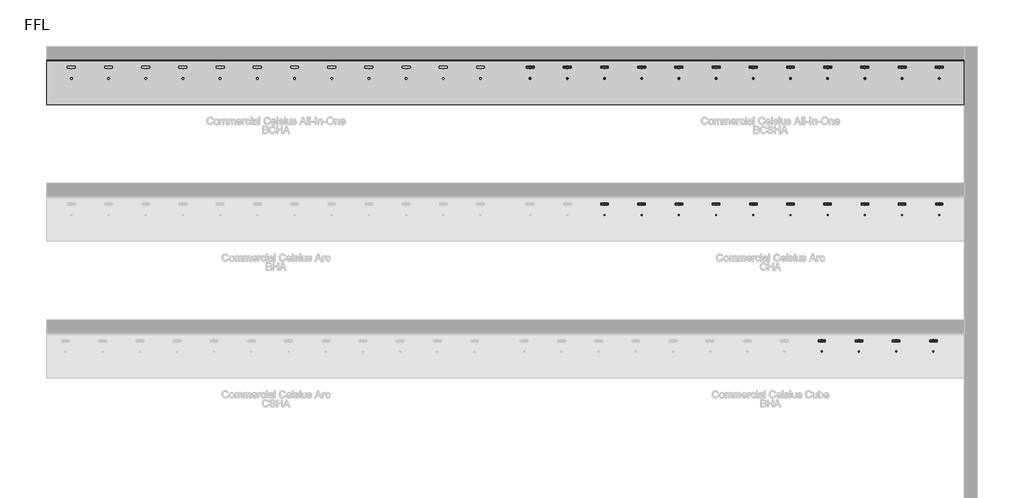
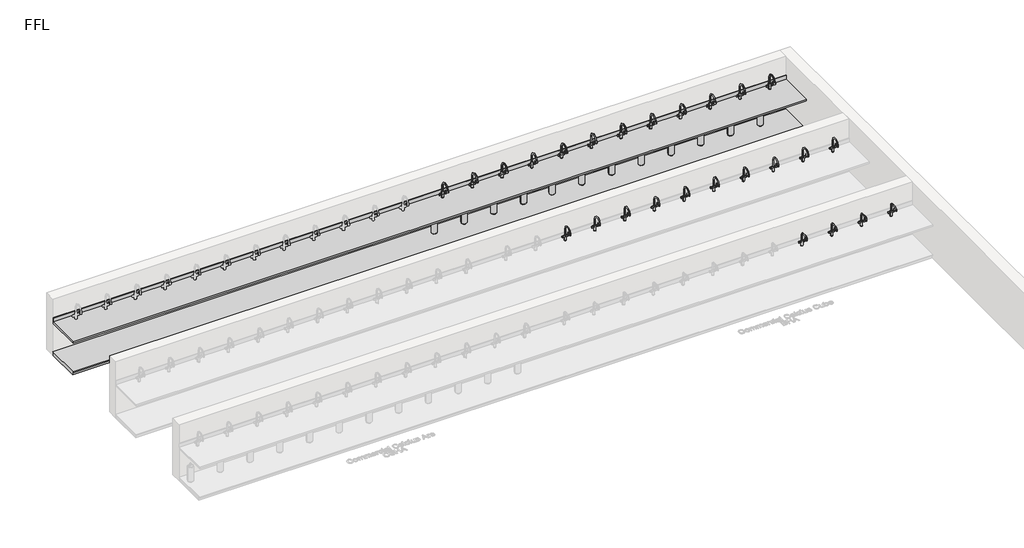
# One storey, part 4 of 9: 56 flow terminals, 2 furniture elements.
"""IFC4 building model written with IfcOpenShell, lengths in millimetres."""

from ifc_helpers import new_model, si_unit, frame, origin, place, context, project, spatial, polyline, circle_curve, transform, mapped, element, save
from ifc_brep_helpers import plane_surface, revolved_surface, advanced_brep
from components import flow_terminal_100_people_nickel_0dc622b1, bright_chrome_d1e259f6, bright_chrome_ca6152f3, co2_gas_cylinder_20234e14, bright_chrome_d5fbbf34, generic_plinth_900mm_f287d53f

model = new_model("IFC4")

# Units and contexts
model_context = context("Model", 3, world=origin())
ifc_project = project(units=[si_unit("LENGTHUNIT", "METRE", prefix="MILLI")], contexts=[model_context])

# Site, building, storey
site = spatial("IfcSite", under=ifc_project)
building = spatial("IfcBuilding", under=site)
storey = spatial("IfcBuildingStorey", under=building, Name="FFL", Elevation=0.0)

# Flow terminals
placement = place(None, origin())
flow_terminal_100_people_nickel_shape = flow_terminal_100_people_nickel_0dc622b1(model_context)
element("IfcFlowTerminal", 1, ObjectType="PlumFixt_Zip Commercial_Celsius Arc_CHA : 100 People - Brushed Gold", at=placement, inside=storey, context=model_context, shape_type="MappedRepresentation", body=[
    mapped(flow_terminal_100_people_nickel_shape, transform((4279.2647071, 4822.7393304, 0.0), x_axis=(1.0, 0.0, 0.0), y_axis=(0.0, 1.0, 0.0), z_axis=(0.0, 0.0, 1.0))),
])
element("IfcFlowTerminal", 2, ObjectType="PlumFixt_Zip Commercial_Celsius Arc_CHA : 100 People - Brushed Nickel", at=placement, inside=storey, context=model_context, shape_type="MappedRepresentation", body=[
    mapped(flow_terminal_100_people_nickel_shape, transform((5029.2647071, 4822.7393304, 0.0), x_axis=(1.0, 0.0, 0.0), y_axis=(0.0, 1.0, 0.0), z_axis=(0.0, 0.0, 1.0))),
])
element("IfcFlowTerminal", 3, ObjectType="PlumFixt_Zip Commercial_Celsius Arc_CHA : 100 People - Brushed Rose Gold", at=placement, inside=storey, context=model_context, shape_type="MappedRepresentation", body=[
    mapped(flow_terminal_100_people_nickel_shape, transform((5779.2647071, 4822.7393304, 0.0), x_axis=(1.0, 0.0, 0.0), y_axis=(0.0, 1.0, 0.0), z_axis=(0.0, 0.0, 1.0))),
])
element("IfcFlowTerminal", 4, ObjectType="PlumFixt_Zip Commercial_Celsius Arc_CHA : 100 People - Gloss Black", at=placement, inside=storey, context=model_context, shape_type="MappedRepresentation", body=[
    mapped(flow_terminal_100_people_nickel_shape, transform((6529.2647071, 4822.7393304, 0.0), x_axis=(1.0, 0.0, 0.0), y_axis=(0.0, 1.0, 0.0), z_axis=(0.0, 0.0, 1.0))),
])
element("IfcFlowTerminal", 5, ObjectType="PlumFixt_Zip Commercial_Celsius Arc_CHA : 100 People - Gold", at=placement, inside=storey, context=model_context, shape_type="MappedRepresentation", body=[
    mapped(flow_terminal_100_people_nickel_shape, transform((7279.2647071, 4822.7393304, 0.0), x_axis=(1.0, 0.0, 0.0), y_axis=(0.0, 1.0, 0.0), z_axis=(0.0, 0.0, 1.0))),
])
element("IfcFlowTerminal", 6, ObjectType="PlumFixt_Zip Commercial_Celsius Arc_CHA : 100 People - Gunmetal", at=placement, inside=storey, context=model_context, shape_type="MappedRepresentation", body=[
    mapped(flow_terminal_100_people_nickel_shape, transform((8029.2647071, 4822.7393304, 0.0), x_axis=(1.0, 0.0, 0.0), y_axis=(0.0, 1.0, 0.0), z_axis=(0.0, 0.0, 1.0))),
])
element("IfcFlowTerminal", 7, ObjectType="PlumFixt_Zip Commercial_Celsius All-In-One_BCSHA : 100 People - Matte Black", at=placement, inside=storey, context=model_context, shape_type="MappedRepresentation", body=[
    mapped(flow_terminal_100_people_nickel_shape, transform((8779.2647071, 7582.7393304, 0.0), x_axis=(1.0, 0.0, 0.0), y_axis=(0.0, 1.0, 0.0), z_axis=(0.0, 0.0, 1.0))),
])
element("IfcFlowTerminal", 8, ObjectType="PlumFixt_Zip Commercial_Celsius All-In-One_BCSHA : 100 People - Matte Black", at=placement, inside=storey, context=model_context, shape_type="MappedRepresentation", body=[
    mapped(flow_terminal_100_people_nickel_shape, transform((11029.2647071, 7582.7393304, 0.0), x_axis=(1.0, 0.0, 0.0), y_axis=(0.0, 1.0, 0.0), z_axis=(0.0, 0.0, 1.0))),
])
element("IfcFlowTerminal", 9, ObjectType="PlumFixt_Zip Commercial_Celsius Arc_CHA : 100 People - Matte Black", at=placement, inside=storey, context=model_context, shape_type="MappedRepresentation", body=[
    mapped(flow_terminal_100_people_nickel_shape, transform((8779.2647071, 4822.7393304, 0.0), x_axis=(1.0, 0.0, 0.0), y_axis=(0.0, 1.0, 0.0), z_axis=(0.0, 0.0, 1.0))),
])
element("IfcFlowTerminal", 10, ObjectType="PlumFixt_Zip Commercial_Celsius Cube_BHA : 100 People - Matte Black", at=placement, inside=storey, context=model_context, shape_type="MappedRepresentation", body=[
    mapped(flow_terminal_100_people_nickel_shape, transform((8659.2647071, 2062.7393304, 0.0), x_axis=(1.0, 0.0, 0.0), y_axis=(0.0, 1.0, 0.0), z_axis=(0.0, 0.0, 1.0))),
])
element("IfcFlowTerminal", 11, ObjectType="PlumFixt_Zip Commercial_Celsius All-In-One_BCSHA : 100 People - Nickel", at=placement, inside=storey, context=model_context, shape_type="MappedRepresentation", body=[
    mapped(flow_terminal_100_people_nickel_shape, transform((9529.2647071, 7582.7393304, 0.0), x_axis=(1.0, 0.0, 0.0), y_axis=(0.0, 1.0, 0.0), z_axis=(0.0, 0.0, 1.0))),
])
element("IfcFlowTerminal", 12, ObjectType="PlumFixt_Zip Commercial_Celsius Arc_CHA : 100 People - Nickel", at=placement, inside=storey, context=model_context, shape_type="MappedRepresentation", body=[
    mapped(flow_terminal_100_people_nickel_shape, transform((9529.2647071, 4822.7393304, 0.0), x_axis=(1.0, 0.0, 0.0), y_axis=(0.0, 1.0, 0.0), z_axis=(0.0, 0.0, 1.0))),
])
element("IfcFlowTerminal", 13, ObjectType="PlumFixt_Zip Commercial_Celsius Cube_BHA : 100 People - Nickel", at=placement, inside=storey, context=model_context, shape_type="MappedRepresentation", body=[
    mapped(flow_terminal_100_people_nickel_shape, transform((9409.2647071, 2062.7393304, 0.0), x_axis=(1.0, 0.0, 0.0), y_axis=(0.0, 1.0, 0.0), z_axis=(0.0, 0.0, 1.0))),
])
element("IfcFlowTerminal", 14, ObjectType="PlumFixt_Zip Commercial_Celsius All-In-One_BCSHA : 100 People - Platinum", at=placement, inside=storey, context=model_context, shape_type="MappedRepresentation", body=[
    mapped(flow_terminal_100_people_nickel_shape, transform((10279.2647071, 7582.7393304, 0.0), x_axis=(1.0, 0.0, 0.0), y_axis=(0.0, 1.0, 0.0), z_axis=(0.0, 0.0, 1.0))),
])
element("IfcFlowTerminal", 15, ObjectType="PlumFixt_Zip Commercial_Celsius Arc_CHA : 100 People - Platinum", at=placement, inside=storey, context=model_context, shape_type="MappedRepresentation", body=[
    mapped(flow_terminal_100_people_nickel_shape, transform((10279.2647071, 4822.7393304, 0.0), x_axis=(1.0, 0.0, 0.0), y_axis=(0.0, 1.0, 0.0), z_axis=(0.0, 0.0, 1.0))),
])
element("IfcFlowTerminal", 16, ObjectType="PlumFixt_Zip Commercial_Celsius Cube_BHA : 100 People - Platinum", at=placement, inside=storey, context=model_context, shape_type="MappedRepresentation", body=[
    mapped(flow_terminal_100_people_nickel_shape, transform((10159.2647071, 2062.7393304, 0.0), x_axis=(1.0, 0.0, 0.0), y_axis=(0.0, 1.0, 0.0), z_axis=(0.0, 0.0, 1.0))),
])
element("IfcFlowTerminal", 17, ObjectType="PlumFixt_Zip Commercial_Celsius Arc_CHA : 100 People - Rose Gold", at=placement, inside=storey, context=model_context, shape_type="MappedRepresentation", body=[
    mapped(flow_terminal_100_people_nickel_shape, transform((11029.2647071, 4822.7393304, 0.0), x_axis=(1.0, 0.0, 0.0), y_axis=(0.0, 1.0, 0.0), z_axis=(0.0, 0.0, 1.0))),
])
element("IfcFlowTerminal", 18, ObjectType="PlumFixt_Zip Commercial_Celsius Cube_BHA : 100 People - Rose Gold", at=placement, inside=storey, context=model_context, shape_type="MappedRepresentation", body=[
    mapped(flow_terminal_100_people_nickel_shape, transform((10909.2647071, 2062.7393304, 0.0), x_axis=(1.0, 0.0, 0.0), y_axis=(0.0, 1.0, 0.0), z_axis=(0.0, 0.0, 1.0))),
])
bright_chrome_shape = bright_chrome_d1e259f6(model_context)
element("IfcFlowTerminal", 19, ObjectType="z_PlumFixt_Zip_Celsius All-In-One : Bright Chrome", at=placement, inside=storey, context=model_context, shape_type="MappedRepresentation", body=[
    mapped(bright_chrome_shape, transform((2779.2647071, 7621.7393304, 900.0), x_axis=(1.0, 0.0, 0.0), y_axis=(0.0, 1.0, 0.0), z_axis=(0.0, 0.0, 1.0))),
])
element("IfcFlowTerminal", 20, ObjectType="z_PlumFixt_Zip_Celsius All-In-One : Brushed Chrome", at=placement, inside=storey, context=model_context, shape_type="MappedRepresentation", body=[
    mapped(bright_chrome_shape, transform((3529.2647071, 7621.7393304, 900.0), x_axis=(1.0, 0.0, 0.0), y_axis=(0.0, 1.0, 0.0), z_axis=(0.0, 0.0, 1.0))),
])
element("IfcFlowTerminal", 21, ObjectType="z_PlumFixt_Zip_Celsius All-In-One : Brushed Gold", at=placement, inside=storey, context=model_context, shape_type="MappedRepresentation", body=[
    mapped(bright_chrome_shape, transform((4279.2647071, 7621.7393304, 900.0), x_axis=(1.0, 0.0, 0.0), y_axis=(0.0, 1.0, 0.0), z_axis=(0.0, 0.0, 1.0))),
])
bright_chrome_2_shape = bright_chrome_ca6152f3(model_context)
element("IfcFlowTerminal", 22, ObjectType="z_PlumFixt_Zip_Celsius Arc : Brushed Gold", at=placement, inside=storey, context=model_context, shape_type="MappedRepresentation", body=[
    mapped(bright_chrome_2_shape, transform((4279.2647071, 4849.4893304, 900.0), x_axis=(1.0, 0.0, 0.0), y_axis=(0.0, 1.0, 0.0), z_axis=(0.0, 0.0, 1.0))),
])
element("IfcFlowTerminal", 23, ObjectType="z_PlumFixt_Zip_Celsius All-In-One : Brushed Nickel", at=placement, inside=storey, context=model_context, shape_type="MappedRepresentation", body=[
    mapped(bright_chrome_shape, transform((5029.2647071, 7621.7393304, 900.0), x_axis=(1.0, 0.0, 0.0), y_axis=(0.0, 1.0, 0.0), z_axis=(0.0, 0.0, 1.0))),
])
element("IfcFlowTerminal", 24, ObjectType="z_PlumFixt_Zip_Celsius Arc : Brushed Nickel", at=placement, inside=storey, context=model_context, shape_type="MappedRepresentation", body=[
    mapped(bright_chrome_2_shape, transform((5029.2647071, 4849.4893304, 900.0), x_axis=(1.0, 0.0, 0.0), y_axis=(0.0, 1.0, 0.0), z_axis=(0.0, 0.0, 1.0))),
])
element("IfcFlowTerminal", 25, ObjectType="z_PlumFixt_Zip_Celsius All-In-One : Brushed Rose Gold", at=placement, inside=storey, context=model_context, shape_type="MappedRepresentation", body=[
    mapped(bright_chrome_shape, transform((5779.2647071, 7621.7393304, 900.0), x_axis=(1.0, 0.0, 0.0), y_axis=(0.0, 1.0, 0.0), z_axis=(0.0, 0.0, 1.0))),
])
element("IfcFlowTerminal", 26, ObjectType="z_PlumFixt_Zip_Celsius Arc : Brushed Rose Gold", at=placement, inside=storey, context=model_context, shape_type="MappedRepresentation", body=[
    mapped(bright_chrome_2_shape, transform((5779.2647071, 4849.4893304, 900.0), x_axis=(1.0, 0.0, 0.0), y_axis=(0.0, 1.0, 0.0), z_axis=(0.0, 0.0, 1.0))),
])
co2_gas_cylinder_shape = co2_gas_cylinder_20234e14(model_context)
element("IfcFlowTerminal", 27, ObjectType="z_PlumFixt_Zip_CO2 Gas Cylinder : CO2 Gas Cylinder", at=placement, inside=storey, context=model_context, shape_type="MappedRepresentation", body=[
    mapped(co2_gas_cylinder_shape, transform((2511.7647071, 7510.7393304, 100.0), x_axis=(-1.0, 0.0, 0.0), y_axis=(0.0, -1.0, 0.0), z_axis=(0.0, 0.0, 1.0))),
])
element("IfcFlowTerminal", 28, ObjectType="z_PlumFixt_Zip_CO2 Gas Cylinder : CO2 Gas Cylinder", at=placement, inside=storey, context=model_context, shape_type="MappedRepresentation", body=[
    mapped(co2_gas_cylinder_shape, transform((3261.7647071, 7510.7393304, 100.0), x_axis=(-1.0, 0.0, 0.0), y_axis=(0.0, -1.0, 0.0), z_axis=(0.0, 0.0, 1.0))),
])
element("IfcFlowTerminal", 29, ObjectType="z_PlumFixt_Zip_CO2 Gas Cylinder : CO2 Gas Cylinder", at=placement, inside=storey, context=model_context, shape_type="MappedRepresentation", body=[
    mapped(co2_gas_cylinder_shape, transform((4011.7647071, 7510.7393304, 100.0), x_axis=(-1.0, 0.0, 0.0), y_axis=(0.0, -1.0, 0.0), z_axis=(0.0, 0.0, 1.0))),
])
element("IfcFlowTerminal", 30, ObjectType="z_PlumFixt_Zip_CO2 Gas Cylinder : CO2 Gas Cylinder", at=placement, inside=storey, context=model_context, shape_type="MappedRepresentation", body=[
    mapped(co2_gas_cylinder_shape, transform((4761.7647071, 7510.7393304, 100.0), x_axis=(-1.0, 0.0, 0.0), y_axis=(0.0, -1.0, 0.0), z_axis=(0.0, 0.0, 1.0))),
])
element("IfcFlowTerminal", 31, ObjectType="z_PlumFixt_Zip_CO2 Gas Cylinder : CO2 Gas Cylinder", at=placement, inside=storey, context=model_context, shape_type="MappedRepresentation", body=[
    mapped(co2_gas_cylinder_shape, transform((5484.2647071, 7509.2393304, 100.0), x_axis=(-1.0, 0.0, 0.0), y_axis=(0.0, -1.0, 0.0), z_axis=(0.0, 0.0, 1.0))),
])
element("IfcFlowTerminal", 32, ObjectType="z_PlumFixt_Zip_CO2 Gas Cylinder : CO2 Gas Cylinder", at=placement, inside=storey, context=model_context, shape_type="MappedRepresentation", body=[
    mapped(co2_gas_cylinder_shape, transform((6234.2647071, 7509.2393304, 100.0), x_axis=(-1.0, 0.0, 0.0), y_axis=(0.0, -1.0, 0.0), z_axis=(0.0, 0.0, 1.0))),
])
element("IfcFlowTerminal", 33, ObjectType="z_PlumFixt_Zip_CO2 Gas Cylinder : CO2 Gas Cylinder", at=placement, inside=storey, context=model_context, shape_type="MappedRepresentation", body=[
    mapped(co2_gas_cylinder_shape, transform((6984.2647071, 7509.2393304, 100.0), x_axis=(-1.0, 0.0, 0.0), y_axis=(0.0, -1.0, 0.0), z_axis=(0.0, 0.0, 1.0))),
])
element("IfcFlowTerminal", 34, ObjectType="z_PlumFixt_Zip_CO2 Gas Cylinder : CO2 Gas Cylinder", at=placement, inside=storey, context=model_context, shape_type="MappedRepresentation", body=[
    mapped(co2_gas_cylinder_shape, transform((7734.2647071, 7509.2393304, 100.0), x_axis=(-1.0, 0.0, 0.0), y_axis=(0.0, -1.0, 0.0), z_axis=(0.0, 0.0, 1.0))),
])
element("IfcFlowTerminal", 35, ObjectType="z_PlumFixt_Zip_CO2 Gas Cylinder : CO2 Gas Cylinder", at=placement, inside=storey, context=model_context, shape_type="MappedRepresentation", body=[
    mapped(co2_gas_cylinder_shape, transform((8484.2647071, 7509.2393304, 100.0), x_axis=(-1.0, 0.0, 0.0), y_axis=(0.0, -1.0, 0.0), z_axis=(0.0, 0.0, 1.0))),
])
element("IfcFlowTerminal", 36, ObjectType="z_PlumFixt_Zip_CO2 Gas Cylinder : CO2 Gas Cylinder", at=placement, inside=storey, context=model_context, shape_type="MappedRepresentation", body=[
    mapped(co2_gas_cylinder_shape, transform((9234.2647071, 7509.2393304, 100.0), x_axis=(-1.0, 0.0, 0.0), y_axis=(0.0, -1.0, 0.0), z_axis=(0.0, 0.0, 1.0))),
])
element("IfcFlowTerminal", 37, ObjectType="z_PlumFixt_Zip_CO2 Gas Cylinder : CO2 Gas Cylinder", at=placement, inside=storey, context=model_context, shape_type="MappedRepresentation", body=[
    mapped(co2_gas_cylinder_shape, transform((9984.2647071, 7509.2393304, 100.0), x_axis=(-1.0, 0.0, 0.0), y_axis=(0.0, -1.0, 0.0), z_axis=(0.0, 0.0, 1.0))),
])
element("IfcFlowTerminal", 38, ObjectType="z_PlumFixt_Zip_CO2 Gas Cylinder : CO2 Gas Cylinder", at=placement, inside=storey, context=model_context, shape_type="MappedRepresentation", body=[
    mapped(co2_gas_cylinder_shape, transform((10734.2647071, 7509.2393304, 100.0), x_axis=(-1.0, 0.0, 0.0), y_axis=(0.0, -1.0, 0.0), z_axis=(0.0, 0.0, 1.0))),
])
element("IfcFlowTerminal", 39, ObjectType="z_PlumFixt_Zip_Celsius All-In-One : Gloss Black", at=placement, inside=storey, context=model_context, shape_type="MappedRepresentation", body=[
    mapped(bright_chrome_shape, transform((6529.2647071, 7621.7393304, 900.0), x_axis=(1.0, 0.0, 0.0), y_axis=(0.0, 1.0, 0.0), z_axis=(0.0, 0.0, 1.0))),
])
element("IfcFlowTerminal", 40, ObjectType="z_PlumFixt_Zip_Celsius Arc : Gloss Black", at=placement, inside=storey, context=model_context, shape_type="MappedRepresentation", body=[
    mapped(bright_chrome_2_shape, transform((6529.2647071, 4849.4893304, 900.0), x_axis=(1.0, 0.0, 0.0), y_axis=(0.0, 1.0, 0.0), z_axis=(0.0, 0.0, 1.0))),
])
element("IfcFlowTerminal", 41, ObjectType="z_PlumFixt_Zip_Celsius All-In-One : Gold", at=placement, inside=storey, context=model_context, shape_type="MappedRepresentation", body=[
    mapped(bright_chrome_shape, transform((7279.2647071, 7621.7393304, 900.0), x_axis=(1.0, 0.0, 0.0), y_axis=(0.0, 1.0, 0.0), z_axis=(0.0, 0.0, 1.0))),
])
element("IfcFlowTerminal", 42, ObjectType="z_PlumFixt_Zip_Celsius Arc : Gold", at=placement, inside=storey, context=model_context, shape_type="MappedRepresentation", body=[
    mapped(bright_chrome_2_shape, transform((7279.2647071, 4849.4893304, 900.0), x_axis=(1.0, 0.0, 0.0), y_axis=(0.0, 1.0, 0.0), z_axis=(0.0, 0.0, 1.0))),
])
element("IfcFlowTerminal", 43, ObjectType="z_PlumFixt_Zip_Celsius All-In-One : Gunmetal", at=placement, inside=storey, context=model_context, shape_type="MappedRepresentation", body=[
    mapped(bright_chrome_shape, transform((8029.2647071, 7621.7393304, 900.0), x_axis=(1.0, 0.0, 0.0), y_axis=(0.0, 1.0, 0.0), z_axis=(0.0, 0.0, 1.0))),
])
element("IfcFlowTerminal", 44, ObjectType="z_PlumFixt_Zip_Celsius Arc : Gunmetal", at=placement, inside=storey, context=model_context, shape_type="MappedRepresentation", body=[
    mapped(bright_chrome_2_shape, transform((8029.2647071, 4849.4893304, 900.0), x_axis=(1.0, 0.0, 0.0), y_axis=(0.0, 1.0, 0.0), z_axis=(0.0, 0.0, 1.0))),
])
element("IfcFlowTerminal", 45, ObjectType="z_PlumFixt_Zip_Celsius All-In-One : Matte Black", at=placement, inside=storey, context=model_context, shape_type="MappedRepresentation", body=[
    mapped(bright_chrome_shape, transform((8779.2647071, 7621.7393304, 900.0), x_axis=(1.0, 0.0, 0.0), y_axis=(0.0, 1.0, 0.0), z_axis=(0.0, 0.0, 1.0))),
])
element("IfcFlowTerminal", 46, ObjectType="z_PlumFixt_Zip_Celsius All-In-One : Matte Black", at=placement, inside=storey, context=model_context, shape_type="MappedRepresentation", body=[
    mapped(bright_chrome_shape, transform((11029.2647071, 7621.7393304, 900.0), x_axis=(1.0, 0.0, 0.0), y_axis=(0.0, 1.0, 0.0), z_axis=(0.0, 0.0, 1.0))),
])
element("IfcFlowTerminal", 47, ObjectType="z_PlumFixt_Zip_Celsius Arc : Matte Black", at=placement, inside=storey, context=model_context, shape_type="MappedRepresentation", body=[
    mapped(bright_chrome_2_shape, transform((8779.2647071, 4849.4893304, 900.0), x_axis=(1.0, 0.0, 0.0), y_axis=(0.0, 1.0, 0.0), z_axis=(0.0, 0.0, 1.0))),
])
bright_chrome_3_shape = bright_chrome_d5fbbf34(model_context)
element("IfcFlowTerminal", 48, ObjectType="z_PlumFixt_Zip_Celsius Cube : Matte Black", at=placement, inside=storey, context=model_context, shape_type="MappedRepresentation", body=[
    mapped(bright_chrome_3_shape, transform((8659.2647071, 2089.4893304, 900.0), x_axis=(1.0, 0.0, 0.0), y_axis=(0.0, 1.0, 0.0), z_axis=(0.0, 0.0, 1.0))),
])
element("IfcFlowTerminal", 49, ObjectType="z_PlumFixt_Zip_Celsius All-In-One : Nickel", at=placement, inside=storey, context=model_context, shape_type="MappedRepresentation", body=[
    mapped(bright_chrome_shape, transform((9529.2647071, 7621.7393304, 900.0), x_axis=(1.0, 0.0, 0.0), y_axis=(0.0, 1.0, 0.0), z_axis=(0.0, 0.0, 1.0))),
])
element("IfcFlowTerminal", 50, ObjectType="z_PlumFixt_Zip_Celsius Arc : Nickel", at=placement, inside=storey, context=model_context, shape_type="MappedRepresentation", body=[
    mapped(bright_chrome_2_shape, transform((9529.2647071, 4849.4893304, 900.0), x_axis=(1.0, 0.0, 0.0), y_axis=(0.0, 1.0, 0.0), z_axis=(0.0, 0.0, 1.0))),
])
element("IfcFlowTerminal", 51, ObjectType="z_PlumFixt_Zip_Celsius Cube : Nickel", at=placement, inside=storey, context=model_context, shape_type="MappedRepresentation", body=[
    mapped(bright_chrome_3_shape, transform((9409.2647071, 2089.4893304, 900.0), x_axis=(1.0, 0.0, 0.0), y_axis=(0.0, 1.0, 0.0), z_axis=(0.0, 0.0, 1.0))),
])
element("IfcFlowTerminal", 52, ObjectType="z_PlumFixt_Zip_Celsius All-In-One : Platinum", at=placement, inside=storey, context=model_context, shape_type="MappedRepresentation", body=[
    mapped(bright_chrome_shape, transform((10279.2647071, 7621.7393304, 900.0), x_axis=(1.0, 0.0, 0.0), y_axis=(0.0, 1.0, 0.0), z_axis=(0.0, 0.0, 1.0))),
])
element("IfcFlowTerminal", 53, ObjectType="z_PlumFixt_Zip_Celsius Arc : Platinum", at=placement, inside=storey, context=model_context, shape_type="MappedRepresentation", body=[
    mapped(bright_chrome_2_shape, transform((10279.2647071, 4849.4893304, 900.0), x_axis=(1.0, 0.0, 0.0), y_axis=(0.0, 1.0, 0.0), z_axis=(0.0, 0.0, 1.0))),
])
element("IfcFlowTerminal", 54, ObjectType="z_PlumFixt_Zip_Celsius Cube : Platinum", at=placement, inside=storey, context=model_context, shape_type="MappedRepresentation", body=[
    mapped(bright_chrome_3_shape, transform((10159.2647071, 2089.4893304, 900.0), x_axis=(1.0, 0.0, 0.0), y_axis=(0.0, 1.0, 0.0), z_axis=(0.0, 0.0, 1.0))),
])
element("IfcFlowTerminal", 55, ObjectType="z_PlumFixt_Zip_Celsius Arc : Rose Gold", at=placement, inside=storey, context=model_context, shape_type="MappedRepresentation", body=[
    mapped(bright_chrome_2_shape, transform((11029.2647071, 4849.4893304, 900.0), x_axis=(1.0, 0.0, 0.0), y_axis=(0.0, 1.0, 0.0), z_axis=(0.0, 0.0, 1.0))),
])
element("IfcFlowTerminal", 56, ObjectType="z_PlumFixt_Zip_Celsius Cube : Rose Gold", at=placement, inside=storey, context=model_context, shape_type="MappedRepresentation", body=[
    mapped(bright_chrome_3_shape, transform((10909.2647071, 2089.4893304, 900.0), x_axis=(1.0, 0.0, 0.0), y_axis=(0.0, 1.0, 0.0), z_axis=(0.0, 0.0, 1.0))),
])

# Furniture
element("IfcFurniture", 57, ObjectType="Counter Top : 900mm Depth", at=placement, inside=storey, context=model_context, shape_type="AdvancedBrep", body=[
    advanced_brep(
    [(-6969.7352929, 6948.2393304, 900.0), (11530.2647071, 6948.2393304, 900.0), (11530.2647071, 7829.1893304, 900.0), (-6969.7352929, 7829.1893304, 900.0), (-6495.7352929, 7698.2393304, 900.0), (-6443.7352929, 7698.2393304, 900.0), (-5745.7352929, 7698.2393304, 900.0), (-5693.7352929, 7698.2393304, 900.0), (-4995.7352929, 7698.2393304, 900.0), (-4943.7352929, 7698.2393304, 900.0), (-4245.7352929, 7698.2393304, 900.0), (-4193.7352929, 7698.2393304, 900.0), (-3495.7352929, 7698.2393304, 900.0), (-3443.7352929, 7698.2393304, 900.0), (-2745.7352929, 7698.2393304, 900.0), (-2693.7352929, 7698.2393304, 900.0), (-1995.7352929, 7698.2393304, 900.0), (-1943.7352929, 7698.2393304, 900.0), (-1245.7352929, 7698.2393304, 900.0), (-1193.7352929, 7698.2393304, 900.0), (-495.7352929, 7698.2393304, 900.0), (-443.7352929, 7698.2393304, 900.0), (254.2647071, 7698.2393304, 900.0), (306.2647071, 7698.2393304, 900.0), (1004.2647071, 7698.2393304, 900.0), (1056.2647071, 7698.2393304, 900.0), (1754.2647071, 7698.2393304, 900.0), (1806.2647071, 7698.2393304, 900.0), (2754.2647071, 7698.2393304, 900.0), (2806.2647071, 7698.2393304, 900.0), (3504.2647071, 7698.2393304, 900.0), (3556.2647071, 7698.2393304, 900.0), (4254.2647071, 7698.2393304, 900.0), (4306.2647071, 7698.2393304, 900.0), (5004.2647071, 7698.2393304, 900.0), (5056.2647071, 7698.2393304, 900.0), (5754.2647071, 7698.2393304, 900.0), (5806.2647071, 7698.2393304, 900.0), (6504.2647071, 7698.2393304, 900.0), (6556.2647071, 7698.2393304, 900.0), (7254.2647071, 7698.2393304, 900.0), (7306.2647071, 7698.2393304, 900.0), (8004.2647071, 7698.2393304, 900.0), (8056.2647071, 7698.2393304, 900.0), (8754.2647071, 7698.2393304, 900.0), (8806.2647071, 7698.2393304, 900.0), (9504.2647071, 7698.2393304, 900.0), (9556.2647071, 7698.2393304, 900.0), (10254.2647071, 7698.2393304, 900.0), (10306.2647071, 7698.2393304, 900.0), (11004.2647071, 7698.2393304, 900.0), (11056.2647071, 7698.2393304, 900.0), (11530.2647071, 7848.2393304, 860.0), (11530.2647071, 6948.2393304, 860.0), (-6969.7352929, 6948.2393304, 860.0), (-6969.7352929, 7848.2393304, 860.0), (-6443.7352929, 7698.2393304, 860.0), (-6495.7352929, 7698.2393304, 860.0), (-5693.7352929, 7698.2393304, 860.0), (-5745.7352929, 7698.2393304, 860.0), (-4943.7352929, 7698.2393304, 860.0), (-4995.7352929, 7698.2393304, 860.0), (-4193.7352929, 7698.2393304, 860.0), (-4245.7352929, 7698.2393304, 860.0), (-3443.7352929, 7698.2393304, 860.0), (-3495.7352929, 7698.2393304, 860.0), (-2693.7352929, 7698.2393304, 860.0), (-2745.7352929, 7698.2393304, 860.0), (-1943.7352929, 7698.2393304, 860.0), (-1995.7352929, 7698.2393304, 860.0), (-1193.7352929, 7698.2393304, 860.0), (-1245.7352929, 7698.2393304, 860.0), (-443.7352929, 7698.2393304, 860.0), (-495.7352929, 7698.2393304, 860.0), (306.2647071, 7698.2393304, 860.0), (254.2647071, 7698.2393304, 860.0), (1056.2647071, 7698.2393304, 860.0), (1004.2647071, 7698.2393304, 860.0), (1806.2647071, 7698.2393304, 860.0), (1754.2647071, 7698.2393304, 860.0), (2806.2647071, 7698.2393304, 860.0), (2754.2647071, 7698.2393304, 860.0), (3556.2647071, 7698.2393304, 860.0), (3504.2647071, 7698.2393304, 860.0), (4306.2647071, 7698.2393304, 860.0), (4254.2647071, 7698.2393304, 860.0), (5056.2647071, 7698.2393304, 860.0), (5004.2647071, 7698.2393304, 860.0), (5806.2647071, 7698.2393304, 860.0), (5754.2647071, 7698.2393304, 860.0), (6556.2647071, 7698.2393304, 860.0), (6504.2647071, 7698.2393304, 860.0), (7306.2647071, 7698.2393304, 860.0), (7254.2647071, 7698.2393304, 860.0), (8056.2647071, 7698.2393304, 860.0), (8004.2647071, 7698.2393304, 860.0), (8806.2647071, 7698.2393304, 860.0), (8754.2647071, 7698.2393304, 860.0), (9556.2647071, 7698.2393304, 860.0), (9504.2647071, 7698.2393304, 860.0), (10306.2647071, 7698.2393304, 860.0), (10254.2647071, 7698.2393304, 860.0), (11056.2647071, 7698.2393304, 860.0), (11004.2647071, 7698.2393304, 860.0), (-6969.7352929, 7848.2393304, 1001.6), (11530.2647071, 7848.2393304, 1001.6), (-6969.7352929, 7829.1893304, 1001.6), (11530.2647071, 7829.1893304, 1001.6)],
    [
        (0, 1),
        (1, 2),
        (2, 3),
        (3, 0),
        (4, 5, circle_curve(frame((-6469.7352929, 7698.2393304, 900.0), z_axis=(0.0, 0.0, -1.0), x_axis=(-1.0, 0.0, 0.0)), 26.0)),
        (5, 4, circle_curve(frame((-6469.7352929, 7698.2393304, 900.0), z_axis=(0.0, 0.0, -1.0), x_axis=(-1.0, 0.0, 0.0)), 26.0)),
        (6, 7, circle_curve(frame((-5719.7352929, 7698.2393304, 900.0), z_axis=(0.0, 0.0, -1.0), x_axis=(-1.0, 0.0, 0.0)), 26.0)),
        (7, 6, circle_curve(frame((-5719.7352929, 7698.2393304, 900.0), z_axis=(0.0, 0.0, -1.0), x_axis=(-1.0, 0.0, 0.0)), 26.0)),
        (8, 9, circle_curve(frame((-4969.7352929, 7698.2393304, 900.0), z_axis=(0.0, 0.0, -1.0), x_axis=(-1.0, 0.0, 0.0)), 26.0)),
        (9, 8, circle_curve(frame((-4969.7352929, 7698.2393304, 900.0), z_axis=(0.0, 0.0, -1.0), x_axis=(-1.0, 0.0, 0.0)), 26.0)),
        (10, 11, circle_curve(frame((-4219.7352929, 7698.2393304, 900.0), z_axis=(0.0, 0.0, -1.0), x_axis=(-1.0, 0.0, 0.0)), 26.0)),
        (11, 10, circle_curve(frame((-4219.7352929, 7698.2393304, 900.0), z_axis=(0.0, 0.0, -1.0), x_axis=(-1.0, 0.0, 0.0)), 26.0)),
        (12, 13, circle_curve(frame((-3469.7352929, 7698.2393304, 900.0), z_axis=(0.0, 0.0, -1.0), x_axis=(-1.0, 0.0, 0.0)), 26.0)),
        (13, 12, circle_curve(frame((-3469.7352929, 7698.2393304, 900.0), z_axis=(0.0, 0.0, -1.0), x_axis=(-1.0, 0.0, 0.0)), 26.0)),
        (14, 15, circle_curve(frame((-2719.7352929, 7698.2393304, 900.0), z_axis=(0.0, 0.0, -1.0), x_axis=(-1.0, 0.0, 0.0)), 26.0)),
        (15, 14, circle_curve(frame((-2719.7352929, 7698.2393304, 900.0), z_axis=(0.0, 0.0, -1.0), x_axis=(-1.0, 0.0, 0.0)), 26.0)),
        (16, 17, circle_curve(frame((-1969.7352929, 7698.2393304, 900.0), z_axis=(0.0, 0.0, -1.0), x_axis=(-1.0, 0.0, 0.0)), 26.0)),
        (17, 16, circle_curve(frame((-1969.7352929, 7698.2393304, 900.0), z_axis=(0.0, 0.0, -1.0), x_axis=(-1.0, 0.0, 0.0)), 26.0)),
        (18, 19, circle_curve(frame((-1219.7352929, 7698.2393304, 900.0), z_axis=(0.0, 0.0, -1.0), x_axis=(-1.0, 0.0, 0.0)), 26.0)),
        (19, 18, circle_curve(frame((-1219.7352929, 7698.2393304, 900.0), z_axis=(0.0, 0.0, -1.0), x_axis=(-1.0, 0.0, 0.0)), 26.0)),
        (20, 21, circle_curve(frame((-469.7352929, 7698.2393304, 900.0), z_axis=(0.0, 0.0, -1.0), x_axis=(-1.0, 0.0, 0.0)), 26.0)),
        (21, 20, circle_curve(frame((-469.7352929, 7698.2393304, 900.0), z_axis=(0.0, 0.0, -1.0), x_axis=(-1.0, 0.0, 0.0)), 26.0)),
        (22, 23, circle_curve(frame((280.2647071, 7698.2393304, 900.0), z_axis=(0.0, 0.0, -1.0), x_axis=(-1.0, 0.0, 0.0)), 26.0)),
        (23, 22, circle_curve(frame((280.2647071, 7698.2393304, 900.0), z_axis=(0.0, 0.0, -1.0), x_axis=(-1.0, 0.0, 0.0)), 26.0)),
        (24, 25, circle_curve(frame((1030.2647071, 7698.2393304, 900.0), z_axis=(0.0, 0.0, -1.0), x_axis=(-1.0, 0.0, 0.0)), 26.0)),
        (25, 24, circle_curve(frame((1030.2647071, 7698.2393304, 900.0), z_axis=(0.0, 0.0, -1.0), x_axis=(-1.0, 0.0, 0.0)), 26.0)),
        (26, 27, circle_curve(frame((1780.2647071, 7698.2393304, 900.0), z_axis=(0.0, 0.0, -1.0), x_axis=(-1.0, 0.0, 0.0)), 26.0)),
        (27, 26, circle_curve(frame((1780.2647071, 7698.2393304, 900.0), z_axis=(0.0, 0.0, -1.0), x_axis=(-1.0, 0.0, 0.0)), 26.0)),
        (28, 29, circle_curve(frame((2780.2647071, 7698.2393304, 900.0), z_axis=(0.0, 0.0, -1.0), x_axis=(-1.0, 0.0, 0.0)), 26.0)),
        (29, 28, circle_curve(frame((2780.2647071, 7698.2393304, 900.0), z_axis=(0.0, 0.0, -1.0), x_axis=(-1.0, 0.0, 0.0)), 26.0)),
        (30, 31, circle_curve(frame((3530.2647071, 7698.2393304, 900.0), z_axis=(0.0, 0.0, -1.0), x_axis=(-1.0, 0.0, 0.0)), 26.0)),
        (31, 30, circle_curve(frame((3530.2647071, 7698.2393304, 900.0), z_axis=(0.0, 0.0, -1.0), x_axis=(-1.0, 0.0, 0.0)), 26.0)),
        (32, 33, circle_curve(frame((4280.2647071, 7698.2393304, 900.0), z_axis=(0.0, 0.0, -1.0), x_axis=(-1.0, 0.0, 0.0)), 26.0)),
        (33, 32, circle_curve(frame((4280.2647071, 7698.2393304, 900.0), z_axis=(0.0, 0.0, -1.0), x_axis=(-1.0, 0.0, 0.0)), 26.0)),
        (34, 35, circle_curve(frame((5030.2647071, 7698.2393304, 900.0), z_axis=(0.0, 0.0, -1.0), x_axis=(-1.0, 0.0, 0.0)), 26.0)),
        (35, 34, circle_curve(frame((5030.2647071, 7698.2393304, 900.0), z_axis=(0.0, 0.0, -1.0), x_axis=(-1.0, 0.0, 0.0)), 26.0)),
        (36, 37, circle_curve(frame((5780.2647071, 7698.2393304, 900.0), z_axis=(0.0, 0.0, -1.0), x_axis=(-1.0, 0.0, 0.0)), 26.0)),
        (37, 36, circle_curve(frame((5780.2647071, 7698.2393304, 900.0), z_axis=(0.0, 0.0, -1.0), x_axis=(-1.0, 0.0, 0.0)), 26.0)),
        (38, 39, circle_curve(frame((6530.2647071, 7698.2393304, 900.0), z_axis=(0.0, 0.0, -1.0), x_axis=(-1.0, 0.0, 0.0)), 26.0)),
        (39, 38, circle_curve(frame((6530.2647071, 7698.2393304, 900.0), z_axis=(0.0, 0.0, -1.0), x_axis=(-1.0, 0.0, 0.0)), 26.0)),
        (40, 41, circle_curve(frame((7280.2647071, 7698.2393304, 900.0), z_axis=(0.0, 0.0, -1.0), x_axis=(-1.0, 0.0, 0.0)), 26.0)),
        (41, 40, circle_curve(frame((7280.2647071, 7698.2393304, 900.0), z_axis=(0.0, 0.0, -1.0), x_axis=(-1.0, 0.0, 0.0)), 26.0)),
        (42, 43, circle_curve(frame((8030.2647071, 7698.2393304, 900.0), z_axis=(0.0, 0.0, -1.0), x_axis=(-1.0, 0.0, 0.0)), 26.0)),
        (43, 42, circle_curve(frame((8030.2647071, 7698.2393304, 900.0), z_axis=(0.0, 0.0, -1.0), x_axis=(-1.0, 0.0, 0.0)), 26.0)),
        (44, 45, circle_curve(frame((8780.2647071, 7698.2393304, 900.0), z_axis=(0.0, 0.0, -1.0), x_axis=(-1.0, 0.0, 0.0)), 26.0)),
        (45, 44, circle_curve(frame((8780.2647071, 7698.2393304, 900.0), z_axis=(0.0, 0.0, -1.0), x_axis=(-1.0, 0.0, 0.0)), 26.0)),
        (46, 47, circle_curve(frame((9530.2647071, 7698.2393304, 900.0), z_axis=(0.0, 0.0, -1.0), x_axis=(-1.0, 0.0, 0.0)), 26.0)),
        (47, 46, circle_curve(frame((9530.2647071, 7698.2393304, 900.0), z_axis=(0.0, 0.0, -1.0), x_axis=(-1.0, 0.0, 0.0)), 26.0)),
        (48, 49, circle_curve(frame((10280.2647071, 7698.2393304, 900.0), z_axis=(0.0, 0.0, -1.0), x_axis=(-1.0, 0.0, 0.0)), 26.0)),
        (49, 48, circle_curve(frame((10280.2647071, 7698.2393304, 900.0), z_axis=(0.0, 0.0, -1.0), x_axis=(-1.0, 0.0, 0.0)), 26.0)),
        (50, 51, circle_curve(frame((11030.2647071, 7698.2393304, 900.0), z_axis=(0.0, 0.0, -1.0), x_axis=(-1.0, 0.0, 0.0)), 26.0)),
        (51, 50, circle_curve(frame((11030.2647071, 7698.2393304, 900.0), z_axis=(0.0, 0.0, -1.0), x_axis=(-1.0, 0.0, 0.0)), 26.0)),
        (52, 53),
        (53, 54),
        (54, 55),
        (55, 52),
        (56, 57, circle_curve(frame((-6469.7352929, 7698.2393304, 860.0), z_axis=(0.0, 0.0, 1.0), x_axis=(-1.0, 0.0, 0.0)), 26.0)),
        (57, 56, circle_curve(frame((-6469.7352929, 7698.2393304, 860.0), z_axis=(0.0, 0.0, 1.0), x_axis=(-1.0, 0.0, 0.0)), 26.0)),
        (58, 59, circle_curve(frame((-5719.7352929, 7698.2393304, 860.0), z_axis=(0.0, 0.0, 1.0), x_axis=(-1.0, 0.0, 0.0)), 26.0)),
        (59, 58, circle_curve(frame((-5719.7352929, 7698.2393304, 860.0), z_axis=(0.0, 0.0, 1.0), x_axis=(-1.0, 0.0, 0.0)), 26.0)),
        (60, 61, circle_curve(frame((-4969.7352929, 7698.2393304, 860.0), z_axis=(0.0, 0.0, 1.0), x_axis=(-1.0, 0.0, 0.0)), 26.0)),
        (61, 60, circle_curve(frame((-4969.7352929, 7698.2393304, 860.0), z_axis=(0.0, 0.0, 1.0), x_axis=(-1.0, 0.0, 0.0)), 26.0)),
        (62, 63, circle_curve(frame((-4219.7352929, 7698.2393304, 860.0), z_axis=(0.0, 0.0, 1.0), x_axis=(-1.0, 0.0, 0.0)), 26.0)),
        (63, 62, circle_curve(frame((-4219.7352929, 7698.2393304, 860.0), z_axis=(0.0, 0.0, 1.0), x_axis=(-1.0, 0.0, 0.0)), 26.0)),
        (64, 65, circle_curve(frame((-3469.7352929, 7698.2393304, 860.0), z_axis=(0.0, 0.0, 1.0), x_axis=(-1.0, 0.0, 0.0)), 26.0)),
        (65, 64, circle_curve(frame((-3469.7352929, 7698.2393304, 860.0), z_axis=(0.0, 0.0, 1.0), x_axis=(-1.0, 0.0, 0.0)), 26.0)),
        (66, 67, circle_curve(frame((-2719.7352929, 7698.2393304, 860.0), z_axis=(0.0, 0.0, 1.0), x_axis=(-1.0, 0.0, 0.0)), 26.0)),
        (67, 66, circle_curve(frame((-2719.7352929, 7698.2393304, 860.0), z_axis=(0.0, 0.0, 1.0), x_axis=(-1.0, 0.0, 0.0)), 26.0)),
        (68, 69, circle_curve(frame((-1969.7352929, 7698.2393304, 860.0), z_axis=(0.0, 0.0, 1.0), x_axis=(-1.0, 0.0, 0.0)), 26.0)),
        (69, 68, circle_curve(frame((-1969.7352929, 7698.2393304, 860.0), z_axis=(0.0, 0.0, 1.0), x_axis=(-1.0, 0.0, 0.0)), 26.0)),
        (70, 71, circle_curve(frame((-1219.7352929, 7698.2393304, 860.0), z_axis=(0.0, 0.0, 1.0), x_axis=(-1.0, 0.0, 0.0)), 26.0)),
        (71, 70, circle_curve(frame((-1219.7352929, 7698.2393304, 860.0), z_axis=(0.0, 0.0, 1.0), x_axis=(-1.0, 0.0, 0.0)), 26.0)),
        (72, 73, circle_curve(frame((-469.7352929, 7698.2393304, 860.0), z_axis=(0.0, 0.0, 1.0), x_axis=(-1.0, 0.0, 0.0)), 26.0)),
        (73, 72, circle_curve(frame((-469.7352929, 7698.2393304, 860.0), z_axis=(0.0, 0.0, 1.0), x_axis=(-1.0, 0.0, 0.0)), 26.0)),
        (74, 75, circle_curve(frame((280.2647071, 7698.2393304, 860.0), z_axis=(0.0, 0.0, 1.0), x_axis=(-1.0, 0.0, 0.0)), 26.0)),
        (75, 74, circle_curve(frame((280.2647071, 7698.2393304, 860.0), z_axis=(0.0, 0.0, 1.0), x_axis=(-1.0, 0.0, 0.0)), 26.0)),
        (76, 77, circle_curve(frame((1030.2647071, 7698.2393304, 860.0), z_axis=(0.0, 0.0, 1.0), x_axis=(-1.0, 0.0, 0.0)), 26.0)),
        (77, 76, circle_curve(frame((1030.2647071, 7698.2393304, 860.0), z_axis=(0.0, 0.0, 1.0), x_axis=(-1.0, 0.0, 0.0)), 26.0)),
        (78, 79, circle_curve(frame((1780.2647071, 7698.2393304, 860.0), z_axis=(0.0, 0.0, 1.0), x_axis=(-1.0, 0.0, 0.0)), 26.0)),
        (79, 78, circle_curve(frame((1780.2647071, 7698.2393304, 860.0), z_axis=(0.0, 0.0, 1.0), x_axis=(-1.0, 0.0, 0.0)), 26.0)),
        (80, 81, circle_curve(frame((2780.2647071, 7698.2393304, 860.0), z_axis=(0.0, 0.0, 1.0), x_axis=(-1.0, 0.0, 0.0)), 26.0)),
        (81, 80, circle_curve(frame((2780.2647071, 7698.2393304, 860.0), z_axis=(0.0, 0.0, 1.0), x_axis=(-1.0, 0.0, 0.0)), 26.0)),
        (82, 83, circle_curve(frame((3530.2647071, 7698.2393304, 860.0), z_axis=(0.0, 0.0, 1.0), x_axis=(-1.0, 0.0, 0.0)), 26.0)),
        (83, 82, circle_curve(frame((3530.2647071, 7698.2393304, 860.0), z_axis=(0.0, 0.0, 1.0), x_axis=(-1.0, 0.0, 0.0)), 26.0)),
        (84, 85, circle_curve(frame((4280.2647071, 7698.2393304, 860.0), z_axis=(0.0, 0.0, 1.0), x_axis=(-1.0, 0.0, 0.0)), 26.0)),
        (85, 84, circle_curve(frame((4280.2647071, 7698.2393304, 860.0), z_axis=(0.0, 0.0, 1.0), x_axis=(-1.0, 0.0, 0.0)), 26.0)),
        (86, 87, circle_curve(frame((5030.2647071, 7698.2393304, 860.0), z_axis=(0.0, 0.0, 1.0), x_axis=(-1.0, 0.0, 0.0)), 26.0)),
        (87, 86, circle_curve(frame((5030.2647071, 7698.2393304, 860.0), z_axis=(0.0, 0.0, 1.0), x_axis=(-1.0, 0.0, 0.0)), 26.0)),
        (88, 89, circle_curve(frame((5780.2647071, 7698.2393304, 860.0), z_axis=(0.0, 0.0, 1.0), x_axis=(-1.0, 0.0, 0.0)), 26.0)),
        (89, 88, circle_curve(frame((5780.2647071, 7698.2393304, 860.0), z_axis=(0.0, 0.0, 1.0), x_axis=(-1.0, 0.0, 0.0)), 26.0)),
        (90, 91, circle_curve(frame((6530.2647071, 7698.2393304, 860.0), z_axis=(0.0, 0.0, 1.0), x_axis=(-1.0, 0.0, 0.0)), 26.0)),
        (91, 90, circle_curve(frame((6530.2647071, 7698.2393304, 860.0), z_axis=(0.0, 0.0, 1.0), x_axis=(-1.0, 0.0, 0.0)), 26.0)),
        (92, 93, circle_curve(frame((7280.2647071, 7698.2393304, 860.0), z_axis=(0.0, 0.0, 1.0), x_axis=(-1.0, 0.0, 0.0)), 26.0)),
        (93, 92, circle_curve(frame((7280.2647071, 7698.2393304, 860.0), z_axis=(0.0, 0.0, 1.0), x_axis=(-1.0, 0.0, 0.0)), 26.0)),
        (94, 95, circle_curve(frame((8030.2647071, 7698.2393304, 860.0), z_axis=(0.0, 0.0, 1.0), x_axis=(-1.0, 0.0, 0.0)), 26.0)),
        (95, 94, circle_curve(frame((8030.2647071, 7698.2393304, 860.0), z_axis=(0.0, 0.0, 1.0), x_axis=(-1.0, 0.0, 0.0)), 26.0)),
        (96, 97, circle_curve(frame((8780.2647071, 7698.2393304, 860.0), z_axis=(0.0, 0.0, 1.0), x_axis=(-1.0, 0.0, 0.0)), 26.0)),
        (97, 96, circle_curve(frame((8780.2647071, 7698.2393304, 860.0), z_axis=(0.0, 0.0, 1.0), x_axis=(-1.0, 0.0, 0.0)), 26.0)),
        (98, 99, circle_curve(frame((9530.2647071, 7698.2393304, 860.0), z_axis=(0.0, 0.0, 1.0), x_axis=(-1.0, 0.0, 0.0)), 26.0)),
        (99, 98, circle_curve(frame((9530.2647071, 7698.2393304, 860.0), z_axis=(0.0, 0.0, 1.0), x_axis=(-1.0, 0.0, 0.0)), 26.0)),
        (100, 101, circle_curve(frame((10280.2647071, 7698.2393304, 860.0), z_axis=(0.0, 0.0, 1.0), x_axis=(-1.0, 0.0, 0.0)), 26.0)),
        (101, 100, circle_curve(frame((10280.2647071, 7698.2393304, 860.0), z_axis=(0.0, 0.0, 1.0), x_axis=(-1.0, 0.0, 0.0)), 26.0)),
        (102, 103, circle_curve(frame((11030.2647071, 7698.2393304, 860.0), z_axis=(0.0, 0.0, 1.0), x_axis=(-1.0, 0.0, 0.0)), 26.0)),
        (103, 102, circle_curve(frame((11030.2647071, 7698.2393304, 860.0), z_axis=(0.0, 0.0, 1.0), x_axis=(-1.0, 0.0, 0.0)), 26.0)),
        (55, 104),
        (104, 105),
        (105, 52),
        (3, 106),
        (106, 104),
        (54, 0),
        (53, 1),
        (105, 107),
        (107, 2),
        (106, 107),
        (56, 5),
        (4, 57),
        (58, 7),
        (6, 59),
        (60, 9),
        (8, 61),
        (62, 11),
        (10, 63),
        (64, 13),
        (12, 65),
        (66, 15),
        (14, 67),
        (68, 17),
        (16, 69),
        (70, 19),
        (18, 71),
        (72, 21),
        (20, 73),
        (74, 23),
        (22, 75),
        (76, 25),
        (24, 77),
        (78, 27),
        (26, 79),
        (80, 29),
        (28, 81),
        (82, 31),
        (30, 83),
        (84, 33),
        (32, 85),
        (86, 35),
        (34, 87),
        (88, 37),
        (36, 89),
        (90, 39),
        (38, 91),
        (92, 41),
        (40, 93),
        (94, 43),
        (42, 95),
        (96, 45),
        (44, 97),
        (98, 47),
        (46, 99),
        (100, 49),
        (48, 101),
        (102, 51),
        (50, 103),
    ],
    [
        plane_surface(frame((-6969.7352929, 7848.2393304, 900.0), z_axis=(0.0, 0.0, 1.0), x_axis=(-1.0, 0.0, 0.0))),
        plane_surface(frame((-6969.7352929, 7848.2393304, 860.0), z_axis=(0.0, 0.0, -1.0), x_axis=(1.0, 0.0, 0.0))),
        plane_surface(frame((11530.2647071, 7848.2393304, 900.0), z_axis=(0.0, 1.0, 0.0), x_axis=(0.0, 0.0, -1.0))),
        plane_surface(frame((-6969.7352929, 7848.2393304, 900.0), z_axis=(-1.0, 0.0, 0.0), x_axis=(0.0, 0.0, -1.0))),
        plane_surface(frame((-6969.7352929, 6948.2393304, 900.0), z_axis=(0.0, -1.0, 0.0), x_axis=(0.0, 0.0, -1.0))),
        plane_surface(frame((11530.2647071, 6948.2393304, 900.0), z_axis=(1.0, 0.0, 0.0), x_axis=(0.0, 0.0, -1.0))),
        plane_surface(frame((-6969.7352929, 7848.2393304, 1001.6), z_axis=(0.0, 0.0, 1.0), x_axis=(0.0, -1.0, 0.0))),
        plane_surface(frame((-6969.7352929, 7829.1893304, 1001.6), z_axis=(0.0, -1.0, 0.0), x_axis=(0.0, 0.0, -1.0))),
        revolved_surface(polyline([(-6495.7352929, 7698.2393304, 900.0), (-6495.7352929, 7698.2393304, 860.0)]), (-6469.7352929, 7698.2393304, 850.0), (0.0, 0.0, 1.0)),
        revolved_surface(polyline([(-5745.7352929, 7698.2393304, 900.0), (-5745.7352929, 7698.2393304, 860.0)]), (-5719.7352929, 7698.2393304, 850.0), (0.0, 0.0, 1.0)),
        revolved_surface(polyline([(-4995.7352929, 7698.2393304, 900.0), (-4995.7352929, 7698.2393304, 860.0)]), (-4969.7352929, 7698.2393304, 850.0), (0.0, 0.0, 1.0)),
        revolved_surface(polyline([(-4245.7352929, 7698.2393304, 900.0), (-4245.7352929, 7698.2393304, 860.0)]), (-4219.7352929, 7698.2393304, 850.0), (0.0, 0.0, 1.0)),
        revolved_surface(polyline([(-3495.7352929, 7698.2393304, 900.0), (-3495.7352929, 7698.2393304, 860.0)]), (-3469.7352929, 7698.2393304, 850.0), (0.0, 0.0, 1.0)),
        revolved_surface(polyline([(-2745.7352929, 7698.2393304, 900.0), (-2745.7352929, 7698.2393304, 860.0)]), (-2719.7352929, 7698.2393304, 850.0), (0.0, 0.0, 1.0)),
        revolved_surface(polyline([(-1995.7352929, 7698.2393304, 900.0), (-1995.7352929, 7698.2393304, 860.0)]), (-1969.7352929, 7698.2393304, 850.0), (0.0, 0.0, 1.0)),
        revolved_surface(polyline([(-1245.7352929, 7698.2393304, 900.0), (-1245.7352929, 7698.2393304, 860.0)]), (-1219.7352929, 7698.2393304, 850.0), (0.0, 0.0, 1.0)),
        revolved_surface(polyline([(-495.7352929, 7698.2393304, 900.0), (-495.7352929, 7698.2393304, 860.0)]), (-469.7352929, 7698.2393304, 850.0), (0.0, 0.0, 1.0)),
        revolved_surface(polyline([(254.2647071, 7698.2393304, 900.0), (254.2647071, 7698.2393304, 860.0)]), (280.2647071, 7698.2393304, 850.0), (0.0, 0.0, 1.0)),
        revolved_surface(polyline([(1004.2647070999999, 7698.2393304, 900.0), (1004.2647070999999, 7698.2393304, 860.0)]), (1030.2647071, 7698.2393304, 850.0), (0.0, 0.0, 1.0)),
        revolved_surface(polyline([(1754.2647071, 7698.2393304, 900.0), (1754.2647071, 7698.2393304, 860.0)]), (1780.2647071, 7698.2393304, 850.0), (0.0, 0.0, 1.0)),
        revolved_surface(polyline([(2754.2647071, 7698.2393304, 900.0), (2754.2647071, 7698.2393304, 860.0)]), (2780.2647071, 7698.2393304, 850.0), (0.0, 0.0, 1.0)),
        revolved_surface(polyline([(3504.2647071, 7698.2393304, 900.0), (3504.2647071, 7698.2393304, 860.0)]), (3530.2647071, 7698.2393304, 850.0), (0.0, 0.0, 1.0)),
        revolved_surface(polyline([(4254.2647071, 7698.2393304, 900.0), (4254.2647071, 7698.2393304, 860.0)]), (4280.2647071, 7698.2393304, 850.0), (0.0, 0.0, 1.0)),
        revolved_surface(polyline([(5004.2647071, 7698.2393304, 900.0), (5004.2647071, 7698.2393304, 860.0)]), (5030.2647071, 7698.2393304, 850.0), (0.0, 0.0, 1.0)),
        revolved_surface(polyline([(5754.2647071, 7698.2393304, 900.0), (5754.2647071, 7698.2393304, 860.0)]), (5780.2647071, 7698.2393304, 850.0), (0.0, 0.0, 1.0)),
        revolved_surface(polyline([(6504.2647071, 7698.2393304, 900.0), (6504.2647071, 7698.2393304, 860.0)]), (6530.2647071, 7698.2393304, 850.0), (0.0, 0.0, 1.0)),
        revolved_surface(polyline([(7254.2647071, 7698.2393304, 900.0), (7254.2647071, 7698.2393304, 860.0)]), (7280.2647071, 7698.2393304, 850.0), (0.0, 0.0, 1.0)),
        revolved_surface(polyline([(8004.2647071, 7698.2393304, 900.0), (8004.2647071, 7698.2393304, 860.0)]), (8030.2647071, 7698.2393304, 850.0), (0.0, 0.0, 1.0)),
        revolved_surface(polyline([(8754.2647071, 7698.2393304, 900.0), (8754.2647071, 7698.2393304, 860.0)]), (8780.2647071, 7698.2393304, 850.0), (0.0, 0.0, 1.0)),
        revolved_surface(polyline([(9504.2647071, 7698.2393304, 900.0), (9504.2647071, 7698.2393304, 860.0)]), (9530.2647071, 7698.2393304, 850.0), (0.0, 0.0, 1.0)),
        revolved_surface(polyline([(10254.2647071, 7698.2393304, 900.0), (10254.2647071, 7698.2393304, 860.0)]), (10280.2647071, 7698.2393304, 850.0), (0.0, 0.0, 1.0)),
        revolved_surface(polyline([(11004.2647071, 7698.2393304, 900.0), (11004.2647071, 7698.2393304, 860.0)]), (11030.2647071, 7698.2393304, 850.0), (0.0, 0.0, 1.0)),
    ],
    [
        (0, [[1, 2, 3, 4], [5, 6], [7, 8], [9, 10], [11, 12], [13, 14], [15, 16], [17, 18], [19, 20], [21, 22], [23, 24], [25, 26], [27, 28], [29, 30], [31, 32], [33, 34], [35, 36], [37, 38], [39, 40], [41, 42], [43, 44], [45, 46], [47, 48], [49, 50], [51, 52]]),
        (1, [[53, 54, 55, 56], [57, 58], [59, 60], [61, 62], [63, 64], [65, 66], [67, 68], [69, 70], [71, 72], [73, 74], [75, 76], [77, 78], [79, 80], [81, 82], [83, 84], [85, 86], [87, 88], [89, 90], [91, 92], [93, 94], [95, 96], [97, 98], [99, 100], [101, 102], [103, 104]]),
        (2, [[-56, 105, 106, 107]]),
        (3, [[-4, 108, 109, -105, -55, 110]]),
        (4, [[-1, -110, -54, 111]]),
        (5, [[-2, -111, -53, -107, 112, 113]]),
        (6, [[-106, -109, 114, -112]]),
        (7, [[-3, -113, -114, -108]]),
        (8, [[115, -5, 116, -57]]),
        (8, [[-115, -58, -116, -6]]),
        (9, [[117, -7, 118, -59]]),
        (9, [[-117, -60, -118, -8]]),
        (10, [[119, -9, 120, -61]]),
        (10, [[-119, -62, -120, -10]]),
        (11, [[121, -11, 122, -63]]),
        (11, [[-121, -64, -122, -12]]),
        (12, [[123, -13, 124, -65]]),
        (12, [[-123, -66, -124, -14]]),
        (13, [[125, -15, 126, -67]]),
        (13, [[-125, -68, -126, -16]]),
        (14, [[127, -17, 128, -69]]),
        (14, [[-127, -70, -128, -18]]),
        (15, [[129, -19, 130, -71]]),
        (15, [[-129, -72, -130, -20]]),
        (16, [[131, -21, 132, -73]]),
        (16, [[-131, -74, -132, -22]]),
        (17, [[133, -23, 134, -75]]),
        (17, [[-133, -76, -134, -24]]),
        (18, [[135, -25, 136, -77]]),
        (18, [[-135, -78, -136, -26]]),
        (19, [[137, -27, 138, -79]]),
        (19, [[-137, -80, -138, -28]]),
        (20, [[139, -29, 140, -81]]),
        (20, [[-139, -82, -140, -30]]),
        (21, [[141, -31, 142, -83]]),
        (21, [[-141, -84, -142, -32]]),
        (22, [[143, -33, 144, -85]]),
        (22, [[-143, -86, -144, -34]]),
        (23, [[145, -35, 146, -87]]),
        (23, [[-145, -88, -146, -36]]),
        (24, [[147, -37, 148, -89]]),
        (24, [[-147, -90, -148, -38]]),
        (25, [[149, -39, 150, -91]]),
        (25, [[-149, -92, -150, -40]]),
        (26, [[151, -41, 152, -93]]),
        (26, [[-151, -94, -152, -42]]),
        (27, [[153, -43, 154, -95]]),
        (27, [[-153, -96, -154, -44]]),
        (28, [[155, -45, 156, -97]]),
        (28, [[-155, -98, -156, -46]]),
        (29, [[157, -47, 158, -99]]),
        (29, [[-157, -100, -158, -48]]),
        (30, [[159, -49, 160, -101]]),
        (30, [[-159, -102, -160, -50]]),
        (31, [[161, -51, 162, -103]]),
        (31, [[-161, -104, -162, -52]]),
    ],
),
])
generic_plinth_900mm_shape = generic_plinth_900mm_f287d53f(model_context)
element("IfcFurniture", 58, ObjectType="Generic Plinth : 900mm", at=placement, inside=storey, context=model_context, shape_type="MappedRepresentation", body=[
    mapped(generic_plinth_900mm_shape, transform((2261.5270022, 7848.2393304, 0.0), x_axis=(1.0, 0.0, 0.0), y_axis=(0.0, 1.0, 0.0), z_axis=(0.0, 0.0, 1.0))),
])

save(model, "model.ifc")
